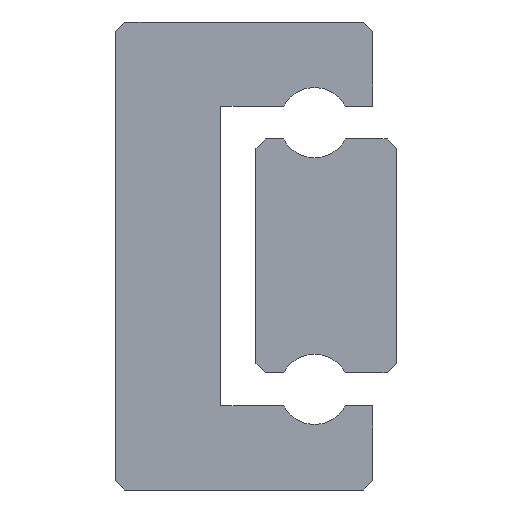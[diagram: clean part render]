
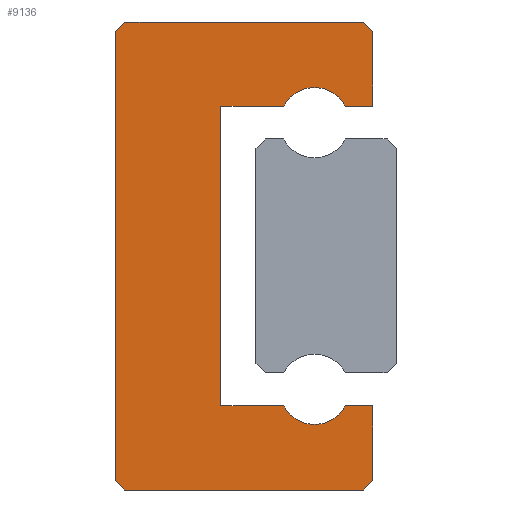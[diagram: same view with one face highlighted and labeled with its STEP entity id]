
A CAD part, left-side view. The second image highlights one B-rep face of the part: STEP entity #9136.
In plain terms, the highlighted planar face has unit normal (-1, 0, 0).
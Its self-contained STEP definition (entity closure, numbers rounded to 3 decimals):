
#65=PLANE('',#9946);
#271=LINE('',#13918,#1077);
#409=LINE('',#14691,#1215);
#412=LINE('',#14697,#1218);
#415=LINE('',#14703,#1221);
#419=LINE('',#14715,#1225);
#422=LINE('',#14729,#1228);
#425=LINE('',#14735,#1231);
#429=LINE('',#14747,#1235);
#432=LINE('',#14753,#1238);
#435=LINE('',#14759,#1241);
#438=LINE('',#14765,#1244);
#441=LINE('',#14771,#1247);
#444=LINE('',#14785,#1250);
#447=LINE('',#14791,#1253);
#1077=VECTOR('',#10863,1000.);
#1215=VECTOR('',#11499,1000.);
#1218=VECTOR('',#11504,1000.);
#1221=VECTOR('',#11509,1000.);
#1225=VECTOR('',#11521,1000.);
#1228=VECTOR('',#11534,1000.);
#1231=VECTOR('',#11539,1000.);
#1235=VECTOR('',#11551,1000.);
#1238=VECTOR('',#11556,1000.);
#1241=VECTOR('',#11561,1000.);
#1244=VECTOR('',#11566,1000.);
#1247=VECTOR('',#11571,1000.);
#1250=VECTOR('',#11584,1000.);
#1253=VECTOR('',#11589,1000.);
#2409=ORIENTED_EDGE('',*,*,#4731,.F.);
#2410=ORIENTED_EDGE('',*,*,#5167,.F.);
#2411=ORIENTED_EDGE('',*,*,#5164,.F.);
#2412=ORIENTED_EDGE('',*,*,#5157,.F.);
#2413=ORIENTED_EDGE('',*,*,#5154,.F.);
#2414=ORIENTED_EDGE('',*,*,#5151,.F.);
#2415=ORIENTED_EDGE('',*,*,#5148,.F.);
#2416=ORIENTED_EDGE('',*,*,#5145,.F.);
#2417=ORIENTED_EDGE('',*,*,#5142,.T.);
#2418=ORIENTED_EDGE('',*,*,#5139,.F.);
#2419=ORIENTED_EDGE('',*,*,#5136,.F.);
#2420=ORIENTED_EDGE('',*,*,#5129,.F.);
#2421=ORIENTED_EDGE('',*,*,#5126,.T.);
#2422=ORIENTED_EDGE('',*,*,#5123,.F.);
#2423=ORIENTED_EDGE('',*,*,#5120,.F.);
#2424=ORIENTED_EDGE('',*,*,#5117,.F.);
#4731=EDGE_CURVE('',#6137,#6138,#271,.T.);
#5117=EDGE_CURVE('',#6138,#6523,#409,.T.);
#5120=EDGE_CURVE('',#6523,#6525,#412,.T.);
#5123=EDGE_CURVE('',#6525,#6527,#415,.T.);
#5126=EDGE_CURVE('',#6529,#6527,#7317,.T.);
#5129=EDGE_CURVE('',#6529,#6531,#419,.T.);
#5136=EDGE_CURVE('',#6531,#6537,#422,.T.);
#5139=EDGE_CURVE('',#6537,#6539,#425,.T.);
#5142=EDGE_CURVE('',#6541,#6539,#7323,.T.);
#5145=EDGE_CURVE('',#6541,#6543,#429,.T.);
#5148=EDGE_CURVE('',#6543,#6545,#432,.T.);
#5151=EDGE_CURVE('',#6545,#6547,#435,.T.);
#5154=EDGE_CURVE('',#6547,#6549,#438,.T.);
#5157=EDGE_CURVE('',#6549,#6551,#441,.T.);
#5164=EDGE_CURVE('',#6551,#6557,#444,.T.);
#5167=EDGE_CURVE('',#6557,#6137,#447,.T.);
#6137=VERTEX_POINT('',#13919);
#6138=VERTEX_POINT('',#13920);
#6523=VERTEX_POINT('',#14692);
#6525=VERTEX_POINT('',#14698);
#6527=VERTEX_POINT('',#14704);
#6529=VERTEX_POINT('',#14710);
#6531=VERTEX_POINT('',#14716);
#6537=VERTEX_POINT('',#14730);
#6539=VERTEX_POINT('',#14736);
#6541=VERTEX_POINT('',#14742);
#6543=VERTEX_POINT('',#14748);
#6545=VERTEX_POINT('',#14754);
#6547=VERTEX_POINT('',#14760);
#6549=VERTEX_POINT('',#14766);
#6551=VERTEX_POINT('',#14772);
#6557=VERTEX_POINT('',#14786);
#7317=CIRCLE('',#9922,0.75);
#7323=CIRCLE('',#9932,0.75);
#7745=EDGE_LOOP('',(#2409,#2410,#2411,#2412,#2413,#2414,#2415,#2416,#2417,
#2418,#2419,#2420,#2421,#2422,#2423,#2424));
#8309=FACE_BOUND('',#7745,.T.);
#9136=ADVANCED_FACE('',(#8309),#65,.F.);
#9922=AXIS2_PLACEMENT_3D('',#14709,#11514,#11515);
#9932=AXIS2_PLACEMENT_3D('',#14741,#11544,#11545);
#9946=AXIS2_PLACEMENT_3D('',#14794,#11593,#11594);
#10863=DIRECTION('',(0.,-1.,0.));
#11499=DIRECTION('',(0.,-0.707,-0.707));
#11504=DIRECTION('',(0.,0.,-1.));
#11509=DIRECTION('',(0.,1.,0.));
#11514=DIRECTION('',(1.,0.,0.));
#11515=DIRECTION('',(0.,0.,-1.));
#11521=DIRECTION('',(0.,1.,0.));
#11534=DIRECTION('',(0.,0.,-1.));
#11539=DIRECTION('',(0.,-1.,0.));
#11544=DIRECTION('',(1.,0.,0.));
#11545=DIRECTION('',(0.,0.,-1.));
#11551=DIRECTION('',(0.,-1.,0.));
#11556=DIRECTION('',(0.,0.,-1.));
#11561=DIRECTION('',(0.,0.707,-0.707));
#11566=DIRECTION('',(0.,1.,0.));
#11571=DIRECTION('',(0.,0.707,0.707));
#11584=DIRECTION('',(0.,0.,1.));
#11589=DIRECTION('',(0.,-0.707,0.707));
#11593=DIRECTION('',(1.,0.,0.));
#11594=DIRECTION('',(0.,0.,-1.));
#13918=CARTESIAN_POINT('',(-7.5,5.3,5.));
#13919=CARTESIAN_POINT('',(-7.5,5.3,5.));
#13920=CARTESIAN_POINT('',(-7.5,0.2,5.));
#14691=CARTESIAN_POINT('',(-7.5,0.2,5.));
#14692=CARTESIAN_POINT('',(-7.5,0.,4.8));
#14697=CARTESIAN_POINT('',(-7.5,0.,4.8));
#14698=CARTESIAN_POINT('',(-7.5,0.,3.2));
#14703=CARTESIAN_POINT('',(-7.5,0.,3.2));
#14704=CARTESIAN_POINT('',(-7.5,0.587,3.2));
#14709=CARTESIAN_POINT('',(-7.5,1.25,2.85));
#14710=CARTESIAN_POINT('',(-7.5,1.913,3.2));
#14715=CARTESIAN_POINT('',(-7.5,1.913,3.2));
#14716=CARTESIAN_POINT('',(-7.5,3.25,3.2));
#14729=CARTESIAN_POINT('',(-7.5,3.25,3.2));
#14730=CARTESIAN_POINT('',(-7.5,3.25,-3.2));
#14735=CARTESIAN_POINT('',(-7.5,3.25,-3.2));
#14736=CARTESIAN_POINT('',(-7.5,1.913,-3.2));
#14741=CARTESIAN_POINT('',(-7.5,1.25,-2.85));
#14742=CARTESIAN_POINT('',(-7.5,0.587,-3.2));
#14747=CARTESIAN_POINT('',(-7.5,0.587,-3.2));
#14748=CARTESIAN_POINT('',(-7.5,0.,-3.2));
#14753=CARTESIAN_POINT('',(-7.5,0.,-3.2));
#14754=CARTESIAN_POINT('',(-7.5,0.,-4.8));
#14759=CARTESIAN_POINT('',(-7.5,0.,-4.8));
#14760=CARTESIAN_POINT('',(-7.5,0.2,-5.));
#14765=CARTESIAN_POINT('',(-7.5,0.2,-5.));
#14766=CARTESIAN_POINT('',(-7.5,5.3,-5.));
#14771=CARTESIAN_POINT('',(-7.5,5.3,-5.));
#14772=CARTESIAN_POINT('',(-7.5,5.5,-4.8));
#14785=CARTESIAN_POINT('',(-7.5,5.5,-4.8));
#14786=CARTESIAN_POINT('',(-7.5,5.5,4.8));
#14791=CARTESIAN_POINT('',(-7.5,5.5,4.8));
#14794=CARTESIAN_POINT('',(-7.5,1.25,2.85));
